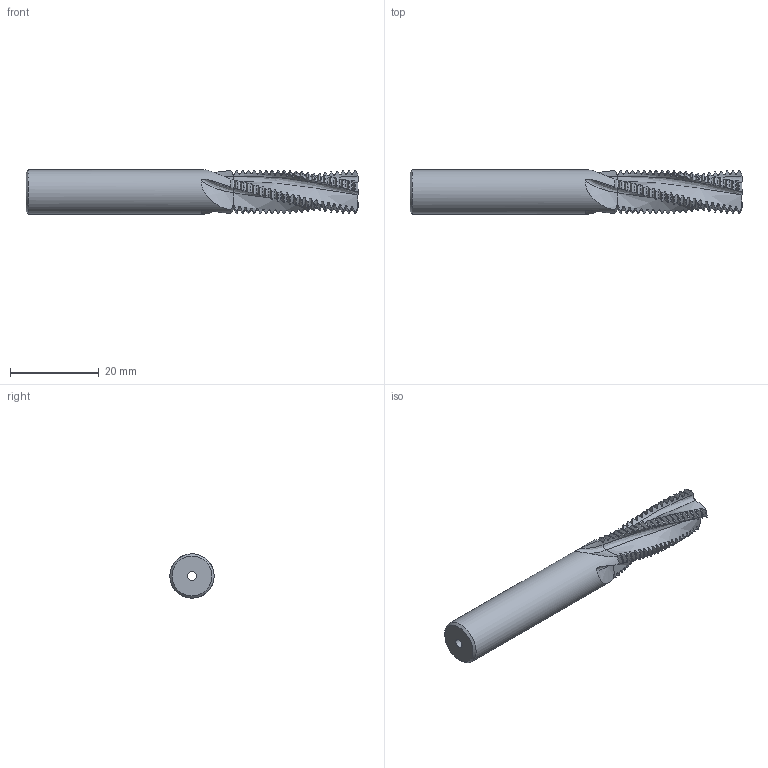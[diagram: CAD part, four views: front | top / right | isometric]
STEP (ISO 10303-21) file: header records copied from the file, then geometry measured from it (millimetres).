
FILE_DESCRIPTION(/* description */ (''),/* implementation_level */ '2;1');
FILE_NAME(/* name */ '00031651-STEP',/* time_stamp */ '2024-02-19T13:18:56+01:00',/* author */ (''),/* organization */ (''),/* preprocessor_version */ 'ST-DEVELOPER v16.5',/* originating_system */ 'HiCAD 2017 2201.0 Build 268',/* authorisation */ '');
FILE_SCHEMA (('AUTOMOTIVE_DESIGN { 1 0 10303 214 1 1 1 1 }'));
Products named in the file (2): Root; ROTATIONSTEIL_2
Assembly tree (1 placements, depth 2):
  Root
    ROTATIONSTEIL_2
Bounding box: 75 x 10 x 10 mm (x, y, z)
Volume: 4336.7 mm3; surface area: 3127.6 mm2
Topology: 1 solids, 1 shells, 369 faces, 1268 edges, 901 vertices
Faces by surface type: cone 173, torus 168, bspline 24, cylinder 2, plane 2
Full cylindrical faces by diameter (mm): 2 x1, 10 x1
Entity records: 43912 total; most frequent: CARTESIAN_POINT 22687, PRESENTATION_STYLE_ASSIGNMENT 2523, COLOUR_RGB 2523, DRAUGHTING_PRE_DEFINED_CURVE_FONT 2522, CURVE_STYLE 2522, OVER_RIDING_STYLED_ITEM 2522, ORIENTED_EDGE 2522, DIRECTION 1392
